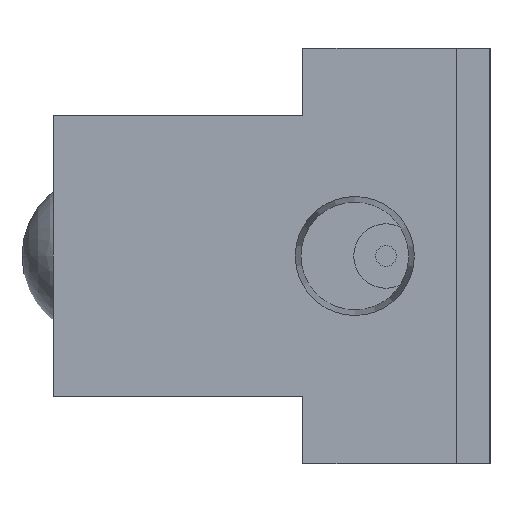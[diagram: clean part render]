
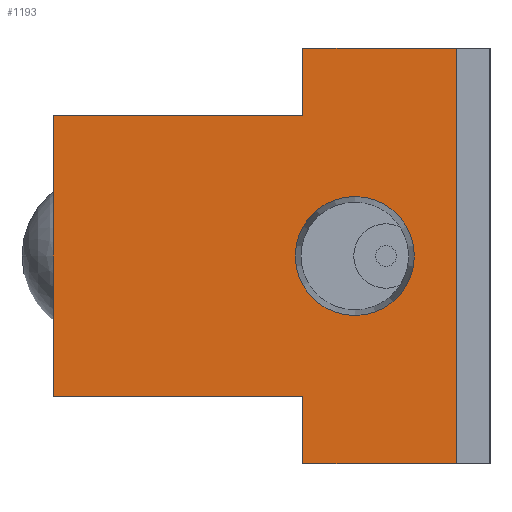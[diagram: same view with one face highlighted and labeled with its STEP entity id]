
A CAD part, left-side view. The second image highlights one B-rep face of the part: STEP entity #1193.
In plain terms, the highlighted planar face has unit normal (-1, 0, 0).
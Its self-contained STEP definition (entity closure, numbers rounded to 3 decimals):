
#1193 = ADVANCED_FACE( '', ( #2578, #2579 ), #2580, .F. );
#2578 = FACE_BOUND( '', #4185, .T. );
#2579 = FACE_OUTER_BOUND( '', #4186, .T. );
#2580 = PLANE( '', #4187 );
#4185 = EDGE_LOOP( '', ( #7152 ) );
#4186 = EDGE_LOOP( '', ( #7153, #7154, #7155, #7156, #7157, #7158, #7159, #7160 ) );
#4187 = AXIS2_PLACEMENT_3D( '', #7161, #7162, #7163 );
#7152 = ORIENTED_EDGE( '', *, *, #10166, .T. );
#7153 = ORIENTED_EDGE( '', *, *, #9233, .F. );
#7154 = ORIENTED_EDGE( '', *, *, #10167, .F. );
#7155 = ORIENTED_EDGE( '', *, *, #9748, .F. );
#7156 = ORIENTED_EDGE( '', *, *, #10168, .F. );
#7157 = ORIENTED_EDGE( '', *, *, #10169, .F. );
#7158 = ORIENTED_EDGE( '', *, *, #10170, .F. );
#7159 = ORIENTED_EDGE( '', *, *, #10171, .F. );
#7160 = ORIENTED_EDGE( '', *, *, #10172, .F. );
#7161 = CARTESIAN_POINT( '', ( 0., 0., 0. ) );
#7162 = DIRECTION( '', ( 1., 0., 0. ) );
#7163 = DIRECTION( '', ( 0., 0., -1. ) );
#9233 = EDGE_CURVE( '', #10979, #10981, #10982, .T. );
#9748 = EDGE_CURVE( '', #11835, #11837, #11838, .T. );
#10166 = EDGE_CURVE( '', #12434, #12434, #12435, .T. );
#10167 = EDGE_CURVE( '', #11837, #10979, #12436, .T. );
#10168 = EDGE_CURVE( '', #12437, #11835, #12438, .T. );
#10169 = EDGE_CURVE( '', #12439, #12437, #12440, .T. );
#10170 = EDGE_CURVE( '', #12441, #12439, #12442, .T. );
#10171 = EDGE_CURVE( '', #12443, #12441, #12444, .T. );
#10172 = EDGE_CURVE( '', #10981, #12443, #12445, .T. );
#10979 = VERTEX_POINT( '', #13460 );
#10981 = VERTEX_POINT( '', #13463 );
#10982 = LINE( '', #13464, #13465 );
#11835 = VERTEX_POINT( '', #14673 );
#11837 = VERTEX_POINT( '', #14676 );
#11838 = LINE( '', #14677, #14678 );
#12434 = VERTEX_POINT( '', #15545 );
#12435 = CIRCLE( '', #15546, 5.723 );
#12436 = LINE( '', #15547, #15548 );
#12437 = VERTEX_POINT( '', #15549 );
#12438 = LINE( '', #15550, #15551 );
#12439 = VERTEX_POINT( '', #15552 );
#12440 = LINE( '', #15553, #15554 );
#12441 = VERTEX_POINT( '', #15555 );
#12442 = LINE( '', #15556, #15557 );
#12443 = VERTEX_POINT( '', #15558 );
#12444 = LINE( '', #15559, #15560 );
#12445 = LINE( '', #15561, #15562 );
#13460 = CARTESIAN_POINT( '', ( 0., 14.8, 13.5 ) );
#13463 = CARTESIAN_POINT( '', ( 0., 14.8, 20. ) );
#13464 = CARTESIAN_POINT( '', ( 0., 14.8, 13.5 ) );
#13465 = VECTOR( '', #16496, 1000. );
#14673 = CARTESIAN_POINT( '', ( 0., 38.8, -13.5 ) );
#14676 = CARTESIAN_POINT( '', ( 0., 38.8, 13.5 ) );
#14677 = CARTESIAN_POINT( '', ( 0., 38.8, -13.5 ) );
#14678 = VECTOR( '', #17006, 1000. );
#15545 = CARTESIAN_POINT( '', ( 0., 9.8, -5.723 ) );
#15546 = AXIS2_PLACEMENT_3D( '', #17368, #17369, #17370 );
#15547 = CARTESIAN_POINT( '', ( 0., 38.8, 13.5 ) );
#15548 = VECTOR( '', #17371, 1000. );
#15549 = CARTESIAN_POINT( '', ( 0., 14.8, -13.5 ) );
#15550 = CARTESIAN_POINT( '', ( 0., 14.8, -13.5 ) );
#15551 = VECTOR( '', #17372, 1000. );
#15552 = CARTESIAN_POINT( '', ( 0., 14.8, -20. ) );
#15553 = CARTESIAN_POINT( '', ( 0., 14.8, -20. ) );
#15554 = VECTOR( '', #17373, 1000. );
#15555 = CARTESIAN_POINT( '', ( 0., 0., -20. ) );
#15556 = CARTESIAN_POINT( '', ( 0., 0., -20. ) );
#15557 = VECTOR( '', #17374, 1000. );
#15558 = CARTESIAN_POINT( '', ( 0., 0., 20. ) );
#15559 = CARTESIAN_POINT( '', ( 0., 0., 20. ) );
#15560 = VECTOR( '', #17375, 1000. );
#15561 = CARTESIAN_POINT( '', ( 0., 14.8, 20. ) );
#15562 = VECTOR( '', #17376, 1000. );
#16496 = DIRECTION( '', ( 0., 0., 1. ) );
#17006 = DIRECTION( '', ( 0., 0., 1. ) );
#17368 = CARTESIAN_POINT( '', ( 0., 9.8, 0. ) );
#17369 = DIRECTION( '', ( 1., 0., 0. ) );
#17370 = DIRECTION( '', ( 0., 0., -1. ) );
#17371 = DIRECTION( '', ( 0., -1., 0. ) );
#17372 = DIRECTION( '', ( 0., 1., 0. ) );
#17373 = DIRECTION( '', ( 0., 0., 1. ) );
#17374 = DIRECTION( '', ( 0., 1., 0. ) );
#17375 = DIRECTION( '', ( 0., 0., -1. ) );
#17376 = DIRECTION( '', ( 0., -1., 0. ) );
